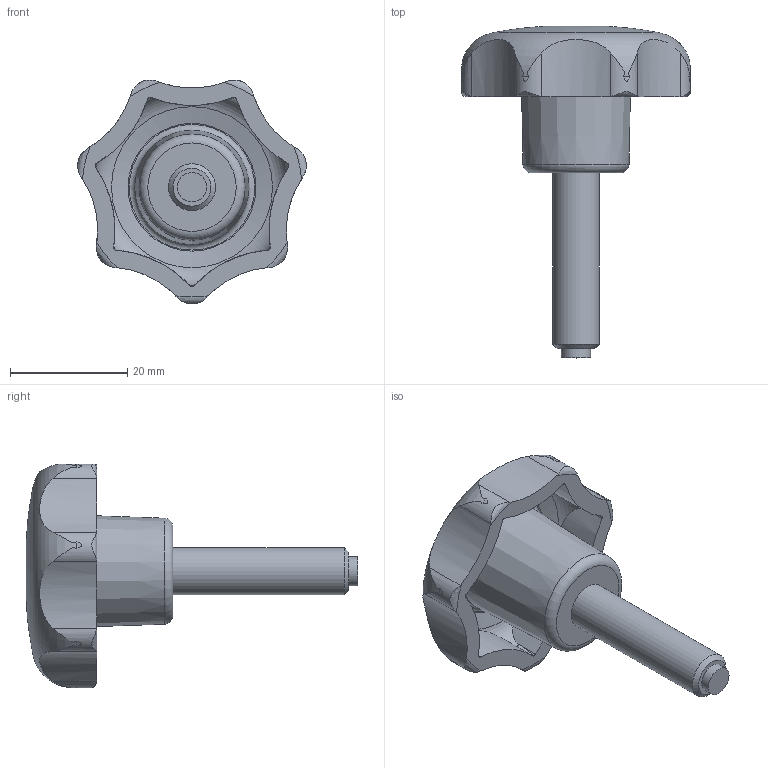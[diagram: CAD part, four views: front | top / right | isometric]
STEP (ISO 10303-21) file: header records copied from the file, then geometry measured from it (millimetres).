
FILE_DESCRIPTION( ( 'STEP AP203' ), '1' );
FILE_NAME( 'C:/Temp/Ganter_Step_05_03_2020/data/2_2/gn6336_10/Star knob GN 6336.10-40-M8-30-KU.stp', '2020-03-05T12:04:25', ( 'License CC BY-ND 4.0' ), ( 'CADENAS' ), ' ', 'PARTsolutions', ' ' );
FILE_SCHEMA( ( 'CONFIG_CONTROL_DESIGN' ) );
Length unit declared in the file: millimetre
Products named in the file (1): _Star knob GN 6336.10-40-M8-30-KU
Bounding box: 39.03 x 56.67 x 38.23 mm (x, y, z)
Volume: 13042.2 mm3; surface area: 5894.1 mm2
Topology: 1 solids, 1 shells, 64 faces, 188 edges, 128 vertices
Faces by surface type: cylinder 30, cone 17, torus 12, plane 4, bspline 1
Full cylindrical faces by diameter (mm): 5 x1, 8 x1
Entity records: 3177 total; most frequent: CARTESIAN_POINT 1616, ORIENTED_EDGE 346, DIRECTION 264, EDGE_CURVE 173, VERTEX_POINT 126, AXIS2_PLACEMENT_3D 118, B_SPLINE_CURVE_WITH_KNOTS 91, EDGE_LOOP 77
